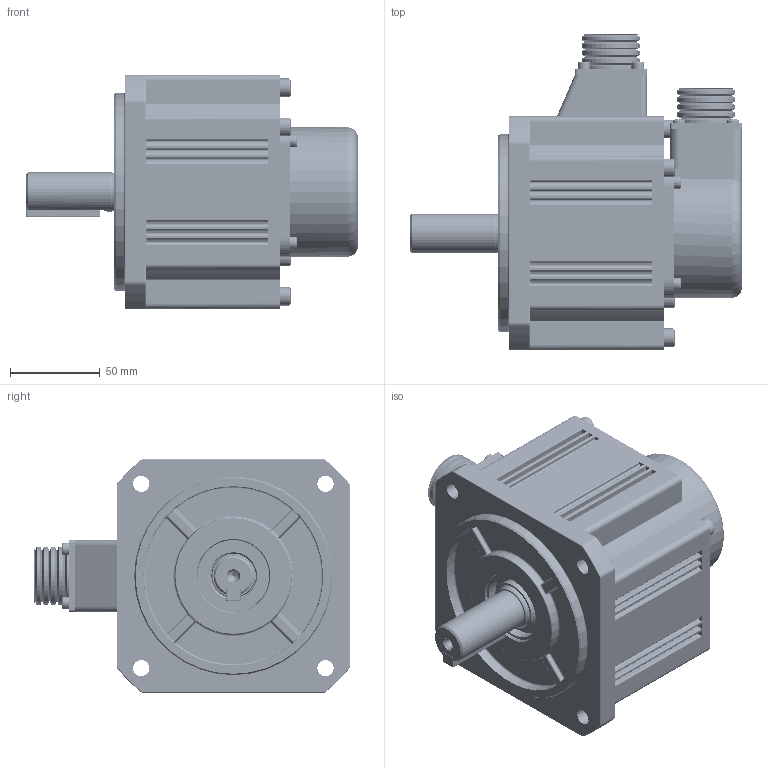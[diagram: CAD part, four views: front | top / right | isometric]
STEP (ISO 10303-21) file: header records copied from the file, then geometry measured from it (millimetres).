
FILE_DESCRIPTION((''),'2;1');
FILE_NAME('11101-01258_ASM','2024-01-23T18:46:58',('admin'),(''),'CREO PARAMETRIC BY PTC INC, 2019080','CREO PARAMETRIC BY PTC INC, 2019080','');
FILE_SCHEMA(('CONFIG_CONTROL_DESIGN'));
Products named in the file (89): 80040391_AF0; 66670022_AF0; 77840013_AF0; 77840004_AF0; 10CDZZJ_AF0_ASM; 66670022_AF1; 77840013_AF1; 77840004_AF1; 10CDZZJ_AF1_ASM; 66670022_AF2; 77840013_AF2; 77840004_AF2; 10CDZZJ_AF2_ASM; 66670022_AF3; 77840013_AF3; 77840004_AF3; 10CDZZJ_AF3_ASM; 66670022_AF4; 77840013_AF4; 77840004_AF4; 10CDZZJ_AF4_ASM; 66670022_AF5; 77840013_AF5; 77840004_AF5; 10CDZZJ_AF5_ASM; 66670022_AF6; 77840013_AF6; 77840004_AF6; 10CDZZJ_AF6_ASM; 66670022_AF7; 77840013_AF7; 77840004_AF7; 10CDZZJ_AF7_ASM; 66670022_AF8; 77840013_AF8; 77840004_AF8; 10CDZZJ_AF8_ASM; 66670022_AF9; 77840013_AF9; 77840004_AF9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
Assembly tree (91 placements, depth 4):
  11101-01258_ASM
    12112-01002_AF0_ASM
      80040391_AF0
      10CDZZJ_AF0_ASM
        66670022_AF0
        77840013_AF0
        77840004_AF0
      10CDZZJ_AF1_ASM
        66670022_AF1
        77840013_AF1
        77840004_AF1
      10CDZZJ_AF2_ASM
        66670022_AF2
        77840013_AF2
        77840004_AF2
      10CDZZJ_AF3_ASM
        66670022_AF3
        77840013_AF3
        77840004_AF3
      10CDZZJ_AF4_ASM
        66670022_AF4
        77840013_AF4
        77840004_AF4
      10CDZZJ_AF5_ASM
        66670022_AF5
        77840013_AF5
        77840004_AF5
      10CDZZJ_AF6_ASM
        66670022_AF6
        77840013_AF6
        77840004_AF6
      10CDZZJ_AF7_ASM
        66670022_AF7
        77840013_AF7
        77840004_AF7
      10CDZZJ_AF8_ASM
        66670022_AF8
        77840013_AF8
        77840004_AF8
      10CDZZJ_AF9_ASM
        66670022_AF9
        77840013_AF9
        77840004_AF9
      10CDZZJ_AF10_ASM
        66670022_AF10
        77840013_AF10
        77840004_AF10
      10CDZZJ_AF11_ASM
        66670022_AF11
        77840013_AF11
        77840004_AF11
      PCB_AF0
    12111-00748_AF0_ASM
      80100288_AF0
      6004-ZZ_AF0
      83040204_AF0
      66660002_AF0
      77700022_AF0
      77700022_AF1
      77700022_AF2
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Bounding box: 184.7 x 176 x 130 mm (x, y, z)
Volume: 423510.3 mm3; surface area: 241240.7 mm2
Topology: 26 solids, 45 shells, 3364 faces, 8938 edges, 5747 vertices
Faces by surface type: plane 1501, cylinder 1259, bspline 232, torus 191, cone 139, sphere 42
Entity records: 133887 total; most frequent: CARTESIAN_POINT 57387, ORIENTED_EDGE 15980, DIRECTION 15086, EDGE_CURVE 8028, VERTEX_POINT 5186, VECTOR 5032, LINE 5032, AXIS2_PLACEMENT_3D 5027
